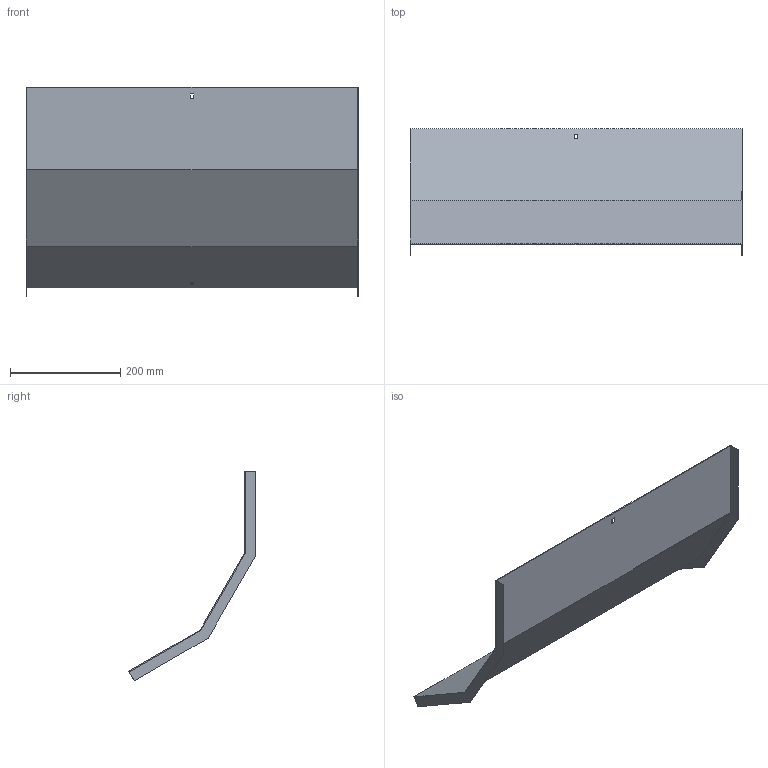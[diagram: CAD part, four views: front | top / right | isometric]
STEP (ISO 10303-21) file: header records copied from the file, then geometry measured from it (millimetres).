
FILE_DESCRIPTION (( 'STEP AP214' ), '1' );
FILE_NAME ('A2X40N3R600X.step', '2025-04-02T08:35:14', ( '' ), ( '' ), 'SwSTEP 2.0', 'SolidWorks 2023', '' );
FILE_SCHEMA (( 'AUTOMOTIVE_DESIGN' ));
Length unit declared in the file: millimetre
Products named in the file (1): A2X40N3R600X
Bounding box: 603 x 229.74 x 380.61 mm (x, y, z)
Volume: 442407 mm3; surface area: 593329.8 mm2
Topology: 1 solids, 1 shells, 26 faces, 72 edges, 48 vertices
Faces by surface type: plane 26
Entity records: 847 total; most frequent: CARTESIAN_POINT 147, ORIENTED_EDGE 144, DIRECTION 126, EDGE_CURVE 72, VECTOR 72, LINE 72, VERTEX_POINT 48, EDGE_LOOP 30
